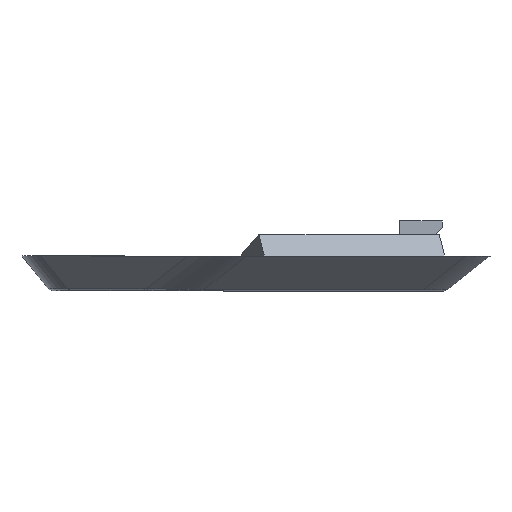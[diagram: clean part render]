
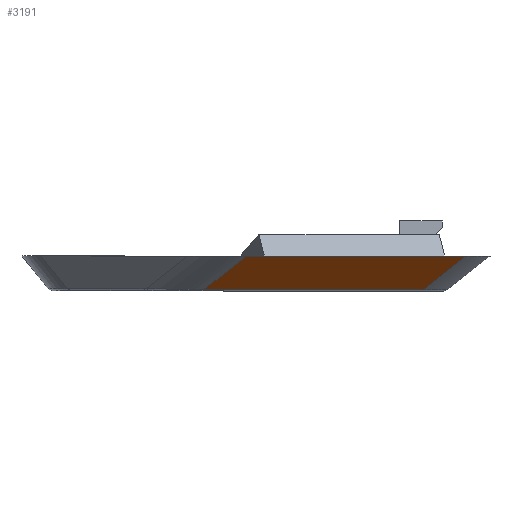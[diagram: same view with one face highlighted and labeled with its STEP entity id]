
A CAD part, left-side view. The second image highlights one B-rep face of the part: STEP entity #3191.
In plain terms, the highlighted planar face has unit normal (-0.5, -0.048, -0.865).
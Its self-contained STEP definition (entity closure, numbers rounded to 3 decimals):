
#207=B_SPLINE_CURVE_WITH_KNOTS('',3,(#5358,#5359,#5360,#5361),
 .UNSPECIFIED.,.F.,.F.,(4,4),(0.251,0.274),
 .UNSPECIFIED.);
#373=FACE_OUTER_BOUND('',#573,.T.);
#573=EDGE_LOOP('',(#2709,#2710,#2711,#2712,#2713));
#711=LINE('',#4825,#1035);
#855=LINE('',#5341,#1179);
#878=LINE('',#5682,#1202);
#886=LINE('',#5695,#1210);
#1035=VECTOR('',#3612,10.);
#1179=VECTOR('',#3954,10.);
#1202=VECTOR('',#3989,10.);
#1210=VECTOR('',#4007,1000.);
#1370=VERTEX_POINT('',#4822);
#1371=VERTEX_POINT('',#4824);
#1529=VERTEX_POINT('',#5313);
#1530=VERTEX_POINT('',#5337);
#1531=VERTEX_POINT('',#5339);
#1700=EDGE_CURVE('',#1370,#1371,#711,.F.);
#1911=EDGE_CURVE('',#1531,#1530,#855,.T.);
#1912=EDGE_CURVE('',#1529,#1531,#207,.T.);
#1948=EDGE_CURVE('',#1371,#1529,#878,.T.);
#1956=EDGE_CURVE('',#1370,#1530,#886,.T.);
#2709=ORIENTED_EDGE('',*,*,#1912,.F.);
#2710=ORIENTED_EDGE('',*,*,#1948,.F.);
#2711=ORIENTED_EDGE('',*,*,#1700,.F.);
#2712=ORIENTED_EDGE('',*,*,#1956,.T.);
#2713=ORIENTED_EDGE('',*,*,#1911,.F.);
#3040=PLANE('',#3404);
#3191=ADVANCED_FACE('',(#373),#3040,.T.);
#3404=AXIS2_PLACEMENT_3D('',#5696,#4008,#4009);
#3612=DIRECTION('',(-0.096,0.995,0.));
#3954=DIRECTION('',(-0.096,0.995,0.));
#3989=DIRECTION('',(0.707,0.554,-0.44));
#4007=DIRECTION('',(0.707,0.554,-0.44));
#4008=DIRECTION('center_axis',(-0.5,-0.048,-0.865));
#4009=DIRECTION('ref_axis',(0.5,-0.831,-0.243));
#4822=CARTESIAN_POINT('',(-20.398,9.179,5.228));
#4824=CARTESIAN_POINT('',(-18.341,-12.137,5.228));
#4825=CARTESIAN_POINT('',(-16.74,-28.726,5.228));
#5313=CARTESIAN_POINT('',(-13.075,-8.013,1.953));
#5337=CARTESIAN_POINT('',(-15.134,13.301,1.954));
#5339=CARTESIAN_POINT('',(-13.09,-7.877,1.954));
#5341=CARTESIAN_POINT('',(-10.835,-31.248,1.954));
#5358=CARTESIAN_POINT('Ctrl Pts',(-13.075,-8.013,1.953));
#5359=CARTESIAN_POINT('Ctrl Pts',(-13.08,-7.968,1.953));
#5360=CARTESIAN_POINT('Ctrl Pts',(-13.086,-7.923,1.954));
#5361=CARTESIAN_POINT('Ctrl Pts',(-13.09,-7.877,1.954));
#5682=CARTESIAN_POINT('',(-63.723,-47.674,33.453));
#5695=CARTESIAN_POINT('',(-137.722,-82.693,78.196));
#5696=CARTESIAN_POINT('Origin',(-140.711,-77.723,79.648));
